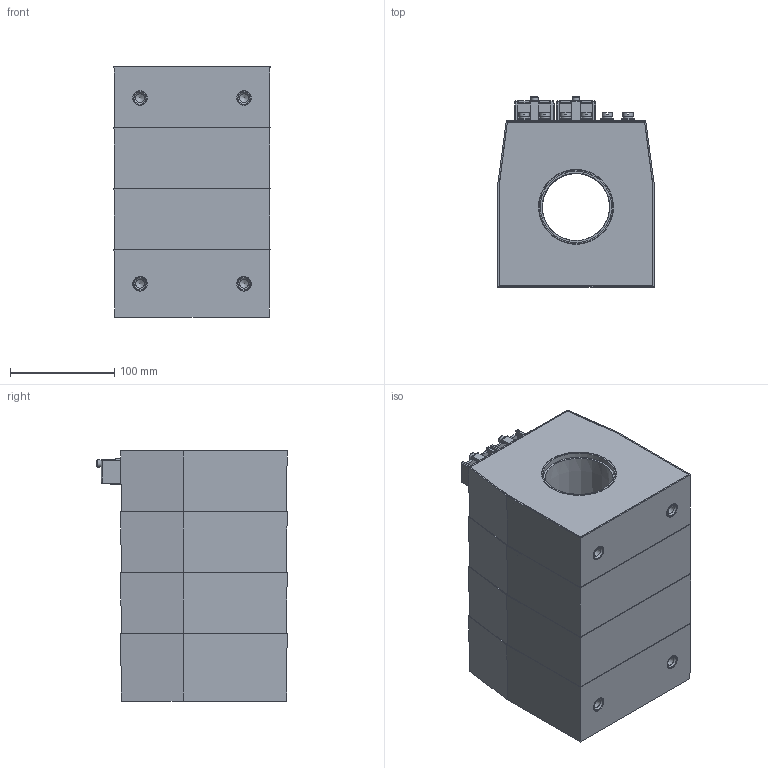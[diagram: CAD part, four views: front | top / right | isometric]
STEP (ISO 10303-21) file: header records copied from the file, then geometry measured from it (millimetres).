
FILE_DESCRIPTION(('STEP AP203'), '1');
FILE_NAME('ÒØÏ-ÍÒÇ-0,66-84À (65 ìì, 4-é ãàáàðèò)', '2025-08-27T09:43:22', ('UNSPECIFIED'), ('UNSPECIFIED'), 'ASCON STEP Converter 1.3', 'ASCON Math Kernel', '');
FILE_SCHEMA(('CONFIG_CONTROL_DESIGN'));
Length unit declared in the file: millimetre
Assembly tree (43 placements, depth 2):
  (unnamed)
    (unnamed)
    (unnamed)  x2
    (unnamed)
    (unnamed)  x4
    (unnamed)  x4
    (unnamed)  x2
    (unnamed)  x6
    (unnamed)  x2
    (unnamed)  x6
    (unnamed)  x6
    (unnamed)  x6
    (unnamed)  x2
    (unnamed)
Bounding box: 150 x 182.93 x 240.5 mm (x, y, z)
Volume: 814479.6 mm3; surface area: 550700.6 mm2
Topology: 43 solids, 43 shells, 694 faces, 1560 edges, 977 vertices
Faces by surface type: plane 378, cylinder 196, cone 84, torus 20, bspline 16
Full cylindrical faces by diameter (mm): 3.244 x2, 3.95 x2, 4 x6, 4.5 x2, 4.8 x6, 4.92 x6, 6 x18, 6.4 x6, 7 x2, 7.1 x4, 8 x2, 8.376 x4, 10 x12, 10.1 x6, 12 x12, 14 x8, 17 x4, 65 x1, 65.05 x1, 68.599 x8, 68.6 x1, 71 x1
Entity records: 14166 total; most frequent: CARTESIAN_POINT 2812, DIRECTION 1574, ORIENTED_EDGE 1390, EDGE_CURVE 695, AXIS2_PLACEMENT_3D 568, VERTEX_POINT 488, EDGE_LOOP 461, LINE 438
